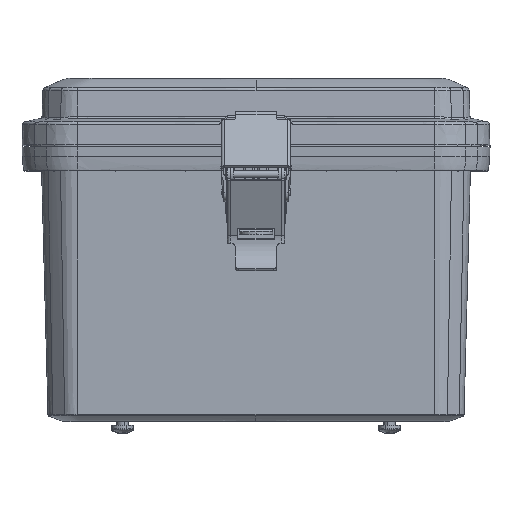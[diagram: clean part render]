
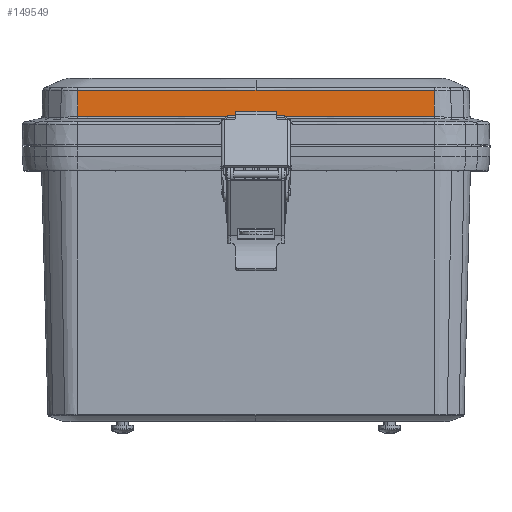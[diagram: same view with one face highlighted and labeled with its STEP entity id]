
A CAD part, top view. The second image highlights one B-rep face of the part: STEP entity #149549.
In plain terms, the highlighted planar face has unit normal (0, 0.035, 0.999).
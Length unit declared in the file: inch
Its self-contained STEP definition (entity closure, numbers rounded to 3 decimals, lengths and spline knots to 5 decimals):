
#834 = CARTESIAN_POINT ( 'NONE',  ( -2.97716, 0.48344, 3.60812 ) ) ;
#1807 = EDGE_CURVE ( 'NONE', #30256, #48937, #104544, .T. ) ;
#3757 = EDGE_CURVE ( 'NONE', #77641, #127768, #168252, .T. ) ;
#5838 = CARTESIAN_POINT ( 'NONE',  ( -2.78908, 0.91923, 3.5929 ) ) ;
#6761 = CARTESIAN_POINT ( 'NONE',  ( 0., 0.9192, 3.5929 ) ) ;
#6868 = CARTESIAN_POINT ( 'NONE',  ( -3.00844, 0.91908, 3.59291 ) ) ;
#7390 = CARTESIAN_POINT ( 'NONE',  ( 2.9771, 0.91937, 3.5929 ) ) ;
#7648 = CARTESIAN_POINT ( 'NONE',  ( -2.00563, 0.91933, 3.5929 ) ) ;
#7713 = CARTESIAN_POINT ( 'NONE',  ( 0., 0.4854, 3.60805 ) ) ;
#8290 = CARTESIAN_POINT ( 'NONE',  ( 1.75492, 0.91927, 3.5929 ) ) ;
#8492 = CARTESIAN_POINT ( 'NONE',  ( 3.00844, 0.48144, 3.60819 ) ) ;
#13603 = CARTESIAN_POINT ( 'NONE',  ( -1.00284, 0.48531, 3.60805 ) ) ;
#19111 = EDGE_CURVE ( 'NONE', #127768, #48937, #37935, .T. ) ;
#19681 = DIRECTION ( 'NONE',  ( 0., -0.999, 0.035 ) ) ;
#20401 = CARTESIAN_POINT ( 'NONE',  ( 1.00282, 0.48531, 3.60805 ) ) ;
#23974 = CARTESIAN_POINT ( 'NONE',  ( 1.75493, 0.48545, 3.60805 ) ) ;
#26392 = CARTESIAN_POINT ( 'NONE',  ( 0., 0.4854, 3.60805 ) ) ;
#29988 = CARTESIAN_POINT ( 'NONE',  ( -2.85183, 0.48549, 3.60805 ) ) ;
#30256 = VERTEX_POINT ( 'NONE', #155582 ) ;
#37935 = B_SPLINE_CURVE_WITH_KNOTS ( 'NONE', 3,
 ( #117996, #147185, #20401, #23974, #63290, #134374, #65078, #48648, #77842, #104367, #76951, #120663, #90641, #132588, #105254, #8492 ),
 .UNSPECIFIED., .F., .F.,
 ( 4, 2, 2, 2, 2, 2, 2, 4 ),
 ( 0., 0.03821, 0.05731, 0.06686, 0.07164, 0.07283, 0.07403, 0.07641 ),
 .UNSPECIFIED. ) ;
#41296 = EDGE_CURVE ( 'NONE', #153609, #77641, #67864, .T. ) ;
#41676 = EDGE_CURVE ( 'NONE', #161830, #153609, #170683, .T. ) ;
#42793 = CARTESIAN_POINT ( 'NONE',  ( -2.38175, 0.48528, 3.60805 ) ) ;
#43685 = CARTESIAN_POINT ( 'NONE',  ( -2.83616, 0.48546, 3.60805 ) ) ;
#44595 = CARTESIAN_POINT ( 'NONE',  ( -2.5071, 0.48517, 3.60806 ) ) ;
#48648 = CARTESIAN_POINT ( 'NONE',  ( 2.69507, 0.48524, 3.60806 ) ) ;
#48937 = VERTEX_POINT ( 'NONE', #153055 ) ;
#49602 = CARTESIAN_POINT ( 'NONE',  ( -1.00281, 0.91918, 3.5929 ) ) ;
#50254 = CARTESIAN_POINT ( 'NONE',  ( 2.99277, 0.91948, 3.59289 ) ) ;
#51131 = CARTESIAN_POINT ( 'NONE',  ( 2.89876, 0.9193, 3.5929 ) ) ;
#56480 = CARTESIAN_POINT ( 'NONE',  ( -2.94584, 0.48478, 3.60807 ) ) ;
#57494 = DIRECTION ( 'NONE',  ( 0., -0.999, 0.035 ) ) ;
#58281 = CARTESIAN_POINT ( 'NONE',  ( -2.88317, 0.48557, 3.60804 ) ) ;
#58389 = ORIENTED_EDGE ( 'NONE', *, *, #41676, .T. ) ;
#60635 = CARTESIAN_POINT ( 'NONE',  ( -2.50704, 0.91922, 3.5929 ) ) ;
#61530 = CARTESIAN_POINT ( 'NONE',  ( -2.89876, 0.9193, 3.5929 ) ) ;
#62178 = CARTESIAN_POINT ( 'NONE',  ( 2.00563, 0.91933, 3.5929 ) ) ;
#63290 = CARTESIAN_POINT ( 'NONE',  ( 2.00563, 0.48555, 3.60804 ) ) ;
#63335 = CARTESIAN_POINT ( 'NONE',  ( -2.9771, 0.91937, 3.5929 ) ) ;
#63964 = CARTESIAN_POINT ( 'NONE',  ( 0., 0.9192, 3.5929 ) ) ;
#64865 = CARTESIAN_POINT ( 'NONE',  ( 2.94577, 0.91934, 3.5929 ) ) ;
#65078 = CARTESIAN_POINT ( 'NONE',  ( 2.50704, 0.48517, 3.60806 ) ) ;
#65660 = EDGE_CURVE ( 'NONE', #30256, #161830, #77243, .T. ) ;
#65931 = VECTOR ( 'NONE', #123471, 39.37008 ) ;
#66105 = CARTESIAN_POINT ( 'NONE',  ( -3.00844, 0.48144, 3.60819 ) ) ;
#67864 = LINE ( 'NONE', #108929, #65931 ) ;
#68485 = CARTESIAN_POINT ( 'NONE',  ( -3.00844, 0., 3.625 ) ) ;
#69291 = CARTESIAN_POINT ( 'NONE',  ( -0.50142, 0.48541, 3.60805 ) ) ;
#69396 = DIRECTION ( 'NONE',  ( 0., 0.035, 0.999 ) ) ;
#74948 = CARTESIAN_POINT ( 'NONE',  ( 2.78908, 0.91923, 3.5929 ) ) ;
#75207 = CARTESIAN_POINT ( 'NONE',  ( -2.38168, 0.91927, 3.5929 ) ) ;
#76951 = CARTESIAN_POINT ( 'NONE',  ( 2.85176, 0.48549, 3.60805 ) ) ;
#77243 = B_SPLINE_CURVE_WITH_KNOTS ( 'NONE', 3,
 ( #116876, #50254, #7390, #64865, #51131, #74948, #147864, #161555, #133274, #62178, #8290, #106819, #89508, #63964 ),
 .UNSPECIFIED., .F., .F.,
 ( 4, 2, 1, 1, 2, 2, 2, 4 ),
 ( 0., 0.00119, 0.00239, 0.00478, 0.00955, 0.0191, 0.03821, 0.07641 ),
 .UNSPECIFIED. ) ;
#77641 = VERTEX_POINT ( 'NONE', #66105 ) ;
#77842 = CARTESIAN_POINT ( 'NONE',  ( 2.75774, 0.4853, 3.60805 ) ) ;
#79401 = EDGE_LOOP ( 'NONE', ( #136063, #158849, #58389, #80593, #86553, #168621 ) ) ;
#80235 = AXIS2_PLACEMENT_3D ( 'NONE', #68485, #69396, #57494 ) ;
#80593 = ORIENTED_EDGE ( 'NONE', *, *, #41296, .T. ) ;
#83044 = FACE_OUTER_BOUND ( 'NONE', #79401, .T. ) ;
#84738 = CARTESIAN_POINT ( 'NONE',  ( -2.00568, 0.48555, 3.60804 ) ) ;
#86553 = ORIENTED_EDGE ( 'NONE', *, *, #3757, .T. ) ;
#89508 = CARTESIAN_POINT ( 'NONE',  ( 0.50141, 0.91921, 3.5929 ) ) ;
#89766 = CARTESIAN_POINT ( 'NONE',  ( -0.50141, 0.91921, 3.5929 ) ) ;
#90641 = CARTESIAN_POINT ( 'NONE',  ( 2.89876, 0.48558, 3.60804 ) ) ;
#100253 = CARTESIAN_POINT ( 'NONE',  ( -1.75497, 0.48546, 3.60805 ) ) ;
#104367 = CARTESIAN_POINT ( 'NONE',  ( 2.83609, 0.48546, 3.60805 ) ) ;
#104544 = LINE ( 'NONE', #144654, #161104 ) ;
#105254 = CARTESIAN_POINT ( 'NONE',  ( 2.97711, 0.48344, 3.60812 ) ) ;
#106819 = CARTESIAN_POINT ( 'NONE',  ( 1.00281, 0.91918, 3.5929 ) ) ;
#108696 = CARTESIAN_POINT ( 'NONE',  ( 0., 0.9192, 3.5929 ) ) ;
#108929 = CARTESIAN_POINT ( 'NONE',  ( -3.00844, 0., 3.625 ) ) ;
#113917 = CARTESIAN_POINT ( 'NONE',  ( -2.69514, 0.48524, 3.60806 ) ) ;
#115344 = CARTESIAN_POINT ( 'NONE',  ( -1.75492, 0.91927, 3.5929 ) ) ;
#116876 = CARTESIAN_POINT ( 'NONE',  ( 3.00844, 0.91908, 3.59291 ) ) ;
#117996 = CARTESIAN_POINT ( 'NONE',  ( 0., 0.4854, 3.60805 ) ) ;
#120663 = CARTESIAN_POINT ( 'NONE',  ( 2.8831, 0.48557, 3.60804 ) ) ;
#123471 = DIRECTION ( 'NONE',  ( 0., -0.999, 0.035 ) ) ;
#127768 = VERTEX_POINT ( 'NONE', #7713 ) ;
#132588 = CARTESIAN_POINT ( 'NONE',  ( 2.94577, 0.48478, 3.60807 ) ) ;
#133274 = CARTESIAN_POINT ( 'NONE',  ( 2.38168, 0.91927, 3.5929 ) ) ;
#134374 = CARTESIAN_POINT ( 'NONE',  ( 2.38169, 0.48528, 3.60805 ) ) ;
#136063 = ORIENTED_EDGE ( 'NONE', *, *, #1807, .F. ) ;
#138585 = CARTESIAN_POINT ( 'NONE',  ( -2.89884, 0.48557, 3.60804 ) ) ;
#142732 = CARTESIAN_POINT ( 'NONE',  ( -2.94577, 0.91934, 3.5929 ) ) ;
#144518 = CARTESIAN_POINT ( 'NONE',  ( -2.69506, 0.91922, 3.5929 ) ) ;
#144654 = CARTESIAN_POINT ( 'NONE',  ( 3.00844, 0., 3.625 ) ) ;
#146336 = CARTESIAN_POINT ( 'NONE',  ( -2.99277, 0.91948, 3.59289 ) ) ;
#147185 = CARTESIAN_POINT ( 'NONE',  ( 0.50141, 0.48541, 3.60805 ) ) ;
#147864 = CARTESIAN_POINT ( 'NONE',  ( 2.69506, 0.91922, 3.5929 ) ) ;
#149549 = ADVANCED_FACE ( 'NONE', ( #83044 ), #166957, .T. ) ;
#153055 = CARTESIAN_POINT ( 'NONE',  ( 3.00844, 0.48144, 3.60819 ) ) ;
#153609 = VERTEX_POINT ( 'NONE', #6868 ) ;
#155582 = CARTESIAN_POINT ( 'NONE',  ( 3.00844, 0.91908, 3.59291 ) ) ;
#156421 = CARTESIAN_POINT ( 'NONE',  ( -3.00844, 0.91908, 3.59291 ) ) ;
#158849 = ORIENTED_EDGE ( 'NONE', *, *, #65660, .T. ) ;
#161104 = VECTOR ( 'NONE', #19681, 39.37008 ) ;
#161555 = CARTESIAN_POINT ( 'NONE',  ( 2.50704, 0.91922, 3.5929 ) ) ;
#161830 = VERTEX_POINT ( 'NONE', #108696 ) ;
#166957 = PLANE ( 'NONE',  #80235 ) ;
#167732 = CARTESIAN_POINT ( 'NONE',  ( -2.75782, 0.4853, 3.60805 ) ) ;
#168252 = B_SPLINE_CURVE_WITH_KNOTS ( 'NONE', 3,
 ( #169532, #834, #56480, #138585, #58281, #29988, #43685, #167732, #113917, #44595, #42793, #84738, #100253, #13603, #69291, #26392 ),
 .UNSPECIFIED., .F., .F.,
 ( 4, 2, 2, 2, 2, 2, 2, 4 ),
 ( 0., 0.00239, 0.00358, 0.00478, 0.00955, 0.01911, 0.03821, 0.07642 ),
 .UNSPECIFIED. ) ;
#168621 = ORIENTED_EDGE ( 'NONE', *, *, #19111, .T. ) ;
#169532 = CARTESIAN_POINT ( 'NONE',  ( -3.00844, 0.48144, 3.60819 ) ) ;
#170683 = B_SPLINE_CURVE_WITH_KNOTS ( 'NONE', 3,
 ( #6761, #89766, #49602, #115344, #7648, #75207, #60635, #144518, #5838, #61530, #142732, #63335, #146336, #156421 ),
 .UNSPECIFIED., .F., .F.,
 ( 4, 2, 2, 2, 1, 1, 2, 4 ),
 ( 0., 0.03821, 0.05731, 0.06686, 0.07164, 0.07403, 0.07522, 0.07641 ),
 .UNSPECIFIED. ) ;
